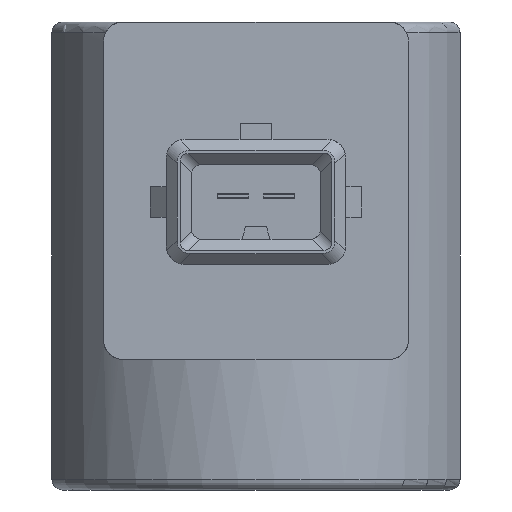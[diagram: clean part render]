
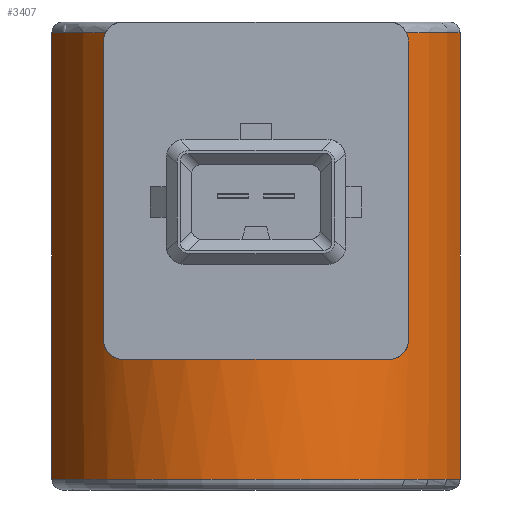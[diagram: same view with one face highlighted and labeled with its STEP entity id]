
A CAD part, left-side view. The second image highlights one B-rep face of the part: STEP entity #3407.
In plain terms, the highlighted cylindrical face has radius 19.5 mm (diameter 39 mm), a partial arc.
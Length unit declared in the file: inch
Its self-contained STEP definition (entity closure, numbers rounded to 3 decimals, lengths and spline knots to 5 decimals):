
#357=CARTESIAN_POINT('',(5.72948,5.25433,-1.65354));
#358=VERTEX_POINT('',#357);
#418=CARTESIAN_POINT('',(5.72948,3.77796,-1.65354));
#419=VERTEX_POINT('',#418);
#437=CARTESIAN_POINT('',(5.94035,4.51615,-1.65354));
#438=DIRECTION('',(0.0,0.0,-1.0));
#439=DIRECTION('',(-1.0,0.0,0.0));
#440=AXIS2_PLACEMENT_3D('',#437,#438,#439);
#441=CIRCLE('',#440,0.76772);
#442=EDGE_CURVE('',#419,#358,#441,.T.);
#542=CARTESIAN_POINT('',(5.72948,3.77796,-0.03937));
#543=VERTEX_POINT('',#542);
#550=CARTESIAN_POINT('',(5.72948,3.77796,-0.03937));
#551=DIRECTION('',(0.0,0.0,-1.0));
#552=VECTOR('',#551,1.61417);
#553=LINE('',#550,#552);
#554=EDGE_CURVE('',#543,#419,#553,.T.);
#2965=CARTESIAN_POINT('',(5.39917,5.06068,-0.03937));
#2966=VERTEX_POINT('',#2965);
#2978=CARTESIAN_POINT('',(5.40595,5.06733,-0.0689));
#2979=VERTEX_POINT('',#2978);
#2980=CARTESIAN_POINT('',(5.40595,5.06733,-0.0689));
#2981=CARTESIAN_POINT('',(5.40595,5.06733,-0.06457));
#2982=CARTESIAN_POINT('',(5.40552,5.06691,-0.06017));
#2983=CARTESIAN_POINT('',(5.40382,5.06526,-0.05159));
#2984=CARTESIAN_POINT('',(5.40256,5.06402,-0.04739));
#2985=CARTESIAN_POINT('',(5.40041,5.0619,-0.04205));
#2986=CARTESIAN_POINT('',(5.39981,5.06131,-0.0407));
#2987=CARTESIAN_POINT('',(5.39917,5.06068,-0.03937));
#2988=B_SPLINE_CURVE_WITH_KNOTS('',3,(#2980,#2981,#2982,#2983,#2984,#2985,#2986,#2987),.UNSPECIFIED.,.F.,.U.,(4,2,2,4),(0.0,0.33006,0.66013,0.77574),.UNSPECIFIED.);
#2989=EDGE_CURVE('',#2979,#2966,#2988,.T.);
#3032=CARTESIAN_POINT('',(5.72948,5.25433,-0.03937));
#3033=VERTEX_POINT('',#3032);
#3051=CARTESIAN_POINT('',(5.94035,4.51615,-0.03937));
#3052=DIRECTION('',(0.0,0.0,1.0));
#3053=DIRECTION('',(-1.0,0.0,0.0));
#3054=AXIS2_PLACEMENT_3D('',#3051,#3052,#3053);
#3055=CIRCLE('',#3054,0.76772);
#3056=EDGE_CURVE('',#3033,#2966,#3055,.T.);
#3085=CARTESIAN_POINT('',(5.40595,3.96497,-0.0689));
#3086=VERTEX_POINT('',#3085);
#3093=CARTESIAN_POINT('',(5.39917,3.97162,-0.03937));
#3094=VERTEX_POINT('',#3093);
#3095=CARTESIAN_POINT('',(5.39917,3.97162,-0.03937));
#3096=CARTESIAN_POINT('',(5.39981,3.97099,-0.0407));
#3097=CARTESIAN_POINT('',(5.40041,3.97039,-0.04205));
#3098=CARTESIAN_POINT('',(5.40256,3.96827,-0.04739));
#3099=CARTESIAN_POINT('',(5.40382,3.96703,-0.05159));
#3100=CARTESIAN_POINT('',(5.40552,3.96538,-0.06017));
#3101=CARTESIAN_POINT('',(5.40595,3.96497,-0.06457));
#3102=CARTESIAN_POINT('',(5.40595,3.96497,-0.0689));
#3103=B_SPLINE_CURVE_WITH_KNOTS('',3,(#3095,#3096,#3097,#3098,#3099,#3100,#3101,#3102),.UNSPECIFIED.,.F.,.U.,(4,2,2,4),(-0.77574,-0.66013,-0.33006,0.0),.UNSPECIFIED.);
#3104=EDGE_CURVE('',#3094,#3086,#3103,.T.);
#3250=CARTESIAN_POINT('',(5.40595,3.96497,-1.15157));
#3251=VERTEX_POINT('',#3250);
#3252=CARTESIAN_POINT('',(5.40595,3.96497,-0.0689));
#3253=DIRECTION('',(0.0,0.0,-1.0));
#3254=VECTOR('',#3253,1.08268);
#3255=LINE('',#3252,#3254);
#3256=EDGE_CURVE('',#3086,#3251,#3255,.T.);
#3274=CARTESIAN_POINT('',(5.34303,4.03386,-1.22047));
#3275=VERTEX_POINT('',#3274);
#3276=CARTESIAN_POINT('',(5.40595,3.96497,-1.15157));
#3277=CARTESIAN_POINT('',(5.40595,3.96497,-1.1559));
#3278=CARTESIAN_POINT('',(5.40552,3.96538,-1.1603));
#3279=CARTESIAN_POINT('',(5.40382,3.96703,-1.16888));
#3280=CARTESIAN_POINT('',(5.40256,3.96827,-1.17308));
#3281=CARTESIAN_POINT('',(5.39778,3.97299,-1.18494));
#3282=CARTESIAN_POINT('',(5.39324,3.97753,-1.1919));
#3283=CARTESIAN_POINT('',(5.3822,3.98895,-1.20474));
#3284=CARTESIAN_POINT('',(5.3745,3.99716,-1.21069));
#3285=CARTESIAN_POINT('',(5.35861,4.01504,-1.21856));
#3286=CARTESIAN_POINT('',(5.35042,4.02472,-1.22047));
#3287=CARTESIAN_POINT('',(5.34303,4.03386,-1.22047));
#3288=B_SPLINE_CURVE_WITH_KNOTS('',3,(#3276,#3277,#3278,#3279,#3280,#3281,#3282,#3283,#3284,#3285,#3286,#3287),.UNSPECIFIED.,.F.,.U.,(4,2,2,2,2,4),(0.0,0.33006,0.66013,1.32026,2.21635,3.11244),.UNSPECIFIED.);
#3289=EDGE_CURVE('',#3251,#3275,#3288,.T.);
#3307=CARTESIAN_POINT('',(5.34303,4.99843,-1.22047));
#3308=VERTEX_POINT('',#3307);
#3309=CARTESIAN_POINT('',(5.94035,4.51615,-1.22047));
#3310=DIRECTION('',(0.0,0.0,-1.0));
#3311=DIRECTION('',(-1.0,0.0,0.0));
#3312=AXIS2_PLACEMENT_3D('',#3309,#3310,#3311);
#3313=CIRCLE('',#3312,0.76772);
#3314=EDGE_CURVE('',#3275,#3308,#3313,.T.);
#3332=CARTESIAN_POINT('',(5.40595,5.06733,-1.15157));
#3333=VERTEX_POINT('',#3332);
#3334=CARTESIAN_POINT('',(5.34303,4.99843,-1.22047));
#3335=CARTESIAN_POINT('',(5.35042,5.00758,-1.22047));
#3336=CARTESIAN_POINT('',(5.35861,5.01725,-1.21856));
#3337=CARTESIAN_POINT('',(5.3745,5.03513,-1.21069));
#3338=CARTESIAN_POINT('',(5.3822,5.04335,-1.20474));
#3339=CARTESIAN_POINT('',(5.39324,5.05476,-1.1919));
#3340=CARTESIAN_POINT('',(5.39778,5.05931,-1.18494));
#3341=CARTESIAN_POINT('',(5.40256,5.06402,-1.17308));
#3342=CARTESIAN_POINT('',(5.40382,5.06526,-1.16888));
#3343=CARTESIAN_POINT('',(5.40552,5.06691,-1.1603));
#3344=CARTESIAN_POINT('',(5.40595,5.06733,-1.1559));
#3345=CARTESIAN_POINT('',(5.40595,5.06733,-1.15157));
#3346=B_SPLINE_CURVE_WITH_KNOTS('',3,(#3334,#3335,#3336,#3337,#3338,#3339,#3340,#3341,#3342,#3343,#3344,#3345),.UNSPECIFIED.,.F.,.U.,(4,2,2,2,2,4),(-3.11244,-2.21635,-1.32026,-0.66013,-0.33006,0.0),.UNSPECIFIED.);
#3347=EDGE_CURVE('',#3308,#3333,#3346,.T.);
#3365=CARTESIAN_POINT('',(5.40595,5.06733,-1.15157));
#3366=DIRECTION('',(0.0,0.0,1.0));
#3367=VECTOR('',#3366,1.08268);
#3368=LINE('',#3365,#3367);
#3369=EDGE_CURVE('',#3333,#2979,#3368,.T.);
#3377=CARTESIAN_POINT('',(5.94035,4.51615,0.0));
#3378=DIRECTION('',(0.0,0.0,-1.0));
#3379=DIRECTION('',(-1.0,0.0,0.0));
#3380=AXIS2_PLACEMENT_3D('',#3377,#3378,#3379);
#3381=CYLINDRICAL_SURFACE('',#3380,0.76772);
#3382=ORIENTED_EDGE('',*,*,#554,.F.);
#3383=CARTESIAN_POINT('',(5.94035,4.51615,-0.03937));
#3384=DIRECTION('',(0.0,0.0,1.0));
#3385=DIRECTION('',(-1.0,0.0,0.0));
#3386=AXIS2_PLACEMENT_3D('',#3383,#3384,#3385);
#3387=CIRCLE('',#3386,0.76772);
#3388=EDGE_CURVE('',#3094,#543,#3387,.T.);
#3389=ORIENTED_EDGE('',*,*,#3388,.F.);
#3390=ORIENTED_EDGE('',*,*,#3104,.T.);
#3391=ORIENTED_EDGE('',*,*,#3256,.T.);
#3392=ORIENTED_EDGE('',*,*,#3289,.T.);
#3393=ORIENTED_EDGE('',*,*,#3314,.T.);
#3394=ORIENTED_EDGE('',*,*,#3347,.T.);
#3395=ORIENTED_EDGE('',*,*,#3369,.T.);
#3396=ORIENTED_EDGE('',*,*,#2989,.T.);
#3397=ORIENTED_EDGE('',*,*,#3056,.F.);
#3398=CARTESIAN_POINT('',(5.72948,5.25433,-0.03937));
#3399=DIRECTION('',(0.0,0.0,-1.0));
#3400=VECTOR('',#3399,1.61417);
#3401=LINE('',#3398,#3400);
#3402=EDGE_CURVE('',#3033,#358,#3401,.T.);
#3403=ORIENTED_EDGE('',*,*,#3402,.T.);
#3404=ORIENTED_EDGE('',*,*,#442,.F.);
#3405=EDGE_LOOP('',(#3382,#3389,#3390,#3391,#3392,#3393,#3394,#3395,#3396,#3397,#3403,#3404));
#3406=FACE_OUTER_BOUND('',#3405,.T.);
#3407=ADVANCED_FACE('',(#3406),#3381,.T.);
